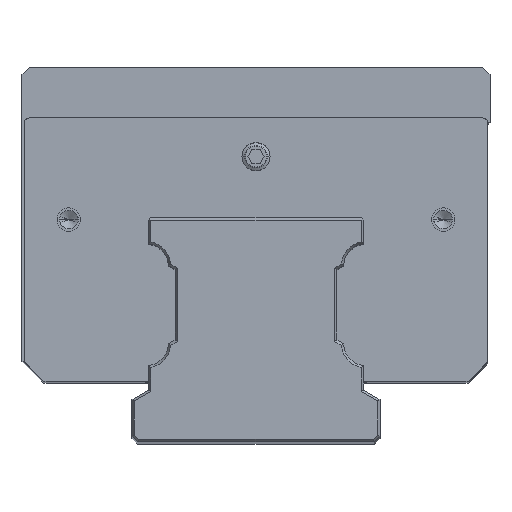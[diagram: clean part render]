
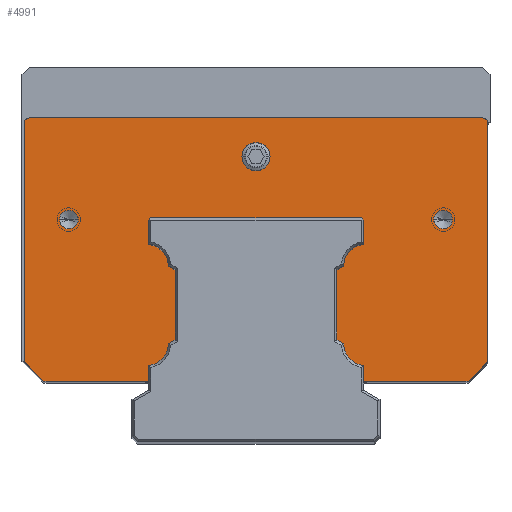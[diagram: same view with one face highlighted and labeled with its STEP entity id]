
A CAD part, top view. The second image highlights one B-rep face of the part: STEP entity #4991.
In plain terms, the highlighted planar face has unit normal (0, 0, 1).
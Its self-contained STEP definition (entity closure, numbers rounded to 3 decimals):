
#3995=CARTESIAN_POINT('',(48.5,-1.,21.7));
#3996=DIRECTION('',(0.,0.,1.));
#3997=DIRECTION('',(1.,0.,0.));
#3998=AXIS2_PLACEMENT_3D('',#3995,#3996,#3997);
#4003=DIRECTION('',(0.,1.,0.));
#4004=VECTOR('',#4003,51.1);
#4005=CARTESIAN_POINT('',(49.5,-52.1,21.7));
#4006=LINE('',#4005,#4004);
#4010=DIRECTION('',(0.707,0.707,0.));
#4011=VECTOR('',#4010,5.94);
#4012=CARTESIAN_POINT('',(45.3,-56.3,21.7));
#4013=LINE('',#4012,#4011);
#4017=DIRECTION('',(1.,0.,0.));
#4018=VECTOR('',#4017,22.3);
#4019=CARTESIAN_POINT('',(23.,-56.3,21.7));
#4020=LINE('',#4019,#4018);
#4024=DIRECTION('',(0.,1.,0.));
#4025=VECTOR('',#4024,3.295);
#4026=CARTESIAN_POINT('',(23.,-56.3,21.7));
#4027=LINE('',#4026,#4025);
#4031=CARTESIAN_POINT('',(23.571,-48.179,21.7));
#4032=DIRECTION('',(0.,0.,1.));
#4033=DIRECTION('',(-0.999,-0.039,0.));
#4034=AXIS2_PLACEMENT_3D('',#4031,#4032,#4033);
#4039=DIRECTION('',(-0.866,0.5,0.));
#4040=VECTOR('',#4039,1.633);
#4041=CARTESIAN_POINT('',(18.715,-48.367,21.7));
#4042=LINE('',#4041,#4040);
#4046=DIRECTION('',(0.,1.,0.));
#4047=VECTOR('',#4046,15.1);
#4048=CARTESIAN_POINT('',(17.3,-47.55,21.7));
#4049=LINE('',#4048,#4047);
#4053=DIRECTION('',(0.866,0.5,0.));
#4054=VECTOR('',#4053,1.633);
#4055=CARTESIAN_POINT('',(17.3,-32.45,21.7));
#4056=LINE('',#4055,#4054);
#4060=CARTESIAN_POINT('',(23.571,-31.821,21.7));
#4061=DIRECTION('',(0.,0.,1.));
#4062=DIRECTION('',(-0.117,0.993,0.));
#4063=AXIS2_PLACEMENT_3D('',#4060,#4061,#4062);
#4068=DIRECTION('',(0.,1.,0.));
#4069=VECTOR('',#4068,5.1);
#4070=CARTESIAN_POINT('',(23.,-26.995,21.7));
#4071=LINE('',#4070,#4069);
#4075=DIRECTION('',(-0.707,0.707,0.));
#4076=VECTOR('',#4075,0.7);
#4077=CARTESIAN_POINT('',(23.,-21.895,21.7));
#4078=LINE('',#4077,#4076);
#4082=DIRECTION('',(-1.,0.,0.));
#4083=VECTOR('',#4082,45.01);
#4084=CARTESIAN_POINT('',(22.505,-21.4,21.7));
#4085=LINE('',#4084,#4083);
#4089=DIRECTION('',(-0.707,-0.707,0.));
#4090=VECTOR('',#4089,0.7);
#4091=CARTESIAN_POINT('',(-22.505,-21.4,21.7));
#4092=LINE('',#4091,#4090);
#4096=DIRECTION('',(0.,-1.,0.));
#4097=VECTOR('',#4096,5.1);
#4098=CARTESIAN_POINT('',(-23.,-21.895,21.7));
#4099=LINE('',#4098,#4097);
#4103=CARTESIAN_POINT('',(-23.571,-31.821,21.7));
#4104=DIRECTION('',(0.,0.,1.));
#4105=DIRECTION('',(0.999,0.039,0.));
#4106=AXIS2_PLACEMENT_3D('',#4103,#4104,#4105);
#4111=DIRECTION('',(0.866,-0.5,0.));
#4112=VECTOR('',#4111,1.633);
#4113=CARTESIAN_POINT('',(-18.715,-31.633,21.7));
#4114=LINE('',#4113,#4112);
#4118=DIRECTION('',(0.,-1.,0.));
#4119=VECTOR('',#4118,15.1);
#4120=CARTESIAN_POINT('',(-17.3,-32.45,21.7));
#4121=LINE('',#4120,#4119);
#4125=DIRECTION('',(-0.866,-0.5,0.));
#4126=VECTOR('',#4125,1.633);
#4127=CARTESIAN_POINT('',(-17.3,-47.55,21.7));
#4128=LINE('',#4127,#4126);
#4132=CARTESIAN_POINT('',(-23.571,-48.179,21.7));
#4133=DIRECTION('',(0.,0.,1.));
#4134=DIRECTION('',(0.117,-0.993,0.));
#4135=AXIS2_PLACEMENT_3D('',#4132,#4133,#4134);
#4140=DIRECTION('',(0.,1.,0.));
#4141=VECTOR('',#4140,3.295);
#4142=CARTESIAN_POINT('',(-23.,-56.3,21.7));
#4143=LINE('',#4142,#4141);
#4147=DIRECTION('',(1.,0.,0.));
#4148=VECTOR('',#4147,22.3);
#4149=CARTESIAN_POINT('',(-45.3,-56.3,21.7));
#4150=LINE('',#4149,#4148);
#4154=DIRECTION('',(0.707,-0.707,0.));
#4155=VECTOR('',#4154,5.94);
#4156=CARTESIAN_POINT('',(-49.5,-52.1,21.7));
#4157=LINE('',#4156,#4155);
#4161=DIRECTION('',(0.,-1.,0.));
#4162=VECTOR('',#4161,51.1);
#4163=CARTESIAN_POINT('',(-49.5,-1.,21.7));
#4164=LINE('',#4163,#4162);
#4168=CARTESIAN_POINT('',(-48.5,-1.,21.7));
#4169=DIRECTION('',(0.,0.,1.));
#4170=DIRECTION('',(0.,1.,0.));
#4171=AXIS2_PLACEMENT_3D('',#4168,#4169,#4170);
#4176=DIRECTION('',(-1.,0.,0.));
#4177=VECTOR('',#4176,97.);
#4178=CARTESIAN_POINT('',(48.5,0.,21.7));
#4179=LINE('',#4178,#4177);
#4183=CARTESIAN_POINT('',(40.,-21.7,21.7));
#4184=DIRECTION('',(0.,0.,1.));
#4185=DIRECTION('',(-1.,0.,0.));
#4186=AXIS2_PLACEMENT_3D('',#4183,#4184,#4185);
#4191=CARTESIAN_POINT('',(40.,-21.7,21.7));
#4192=DIRECTION('',(0.,0.,1.));
#4193=DIRECTION('',(1.,0.,0.));
#4194=AXIS2_PLACEMENT_3D('',#4191,#4192,#4193);
#4199=CARTESIAN_POINT('',(-40.,-21.7,21.7));
#4200=DIRECTION('',(0.,0.,1.));
#4201=DIRECTION('',(-1.,0.,0.));
#4202=AXIS2_PLACEMENT_3D('',#4199,#4200,#4201);
#4207=CARTESIAN_POINT('',(-40.,-21.7,21.7));
#4208=DIRECTION('',(0.,0.,1.));
#4209=DIRECTION('',(1.,0.,0.));
#4210=AXIS2_PLACEMENT_3D('',#4207,#4208,#4209);
#4215=CARTESIAN_POINT('',(0.,-8.3,21.7));
#4216=DIRECTION('',(0.,0.,1.));
#4217=DIRECTION('',(-1.,0.,0.));
#4218=AXIS2_PLACEMENT_3D('',#4215,#4216,#4217);
#4223=CARTESIAN_POINT('',(0.,-8.3,21.7));
#4224=DIRECTION('',(0.,0.,1.));
#4225=DIRECTION('',(1.,0.,0.));
#4226=AXIS2_PLACEMENT_3D('',#4223,#4224,#4225);
#4399=CARTESIAN_POINT('',(45.3,-56.3,21.7));
#4400=CARTESIAN_POINT('',(49.5,-52.1,21.7));
#4401=VERTEX_POINT('',#4399);
#4402=VERTEX_POINT('',#4400);
#4403=CARTESIAN_POINT('',(-49.5,-52.1,21.7));
#4404=CARTESIAN_POINT('',(-45.3,-56.3,21.7));
#4405=VERTEX_POINT('',#4403);
#4406=VERTEX_POINT('',#4404);
#4413=CARTESIAN_POINT('',(38.,-21.7,21.7));
#4414=VERTEX_POINT('',#4413);
#4415=CARTESIAN_POINT('',(42.,-21.7,21.7));
#4416=VERTEX_POINT('',#4415);
#4423=CARTESIAN_POINT('',(-42.,-21.7,21.7));
#4424=VERTEX_POINT('',#4423);
#4425=CARTESIAN_POINT('',(-38.,-21.7,21.7));
#4426=VERTEX_POINT('',#4425);
#4433=CARTESIAN_POINT('',(-3.,-8.3,21.7));
#4434=CARTESIAN_POINT('',(3.,-8.3,21.7));
#4435=VERTEX_POINT('',#4433);
#4436=VERTEX_POINT('',#4434);
#4441=CARTESIAN_POINT('',(49.5,-1.,21.7));
#4442=VERTEX_POINT('',#4441);
#4443=CARTESIAN_POINT('',(48.5,0.,21.7));
#4444=VERTEX_POINT('',#4443);
#4449=CARTESIAN_POINT('',(-48.5,0.,21.7));
#4450=VERTEX_POINT('',#4449);
#4451=CARTESIAN_POINT('',(-49.5,-1.,21.7));
#4452=VERTEX_POINT('',#4451);
#4489=CARTESIAN_POINT('',(23.,-56.3,21.7));
#4490=VERTEX_POINT('',#4489);
#4491=CARTESIAN_POINT('',(-23.,-56.3,21.7));
#4492=VERTEX_POINT('',#4491);
#4493=CARTESIAN_POINT('',(23.,-53.005,21.7));
#4494=VERTEX_POINT('',#4493);
#4495=CARTESIAN_POINT('',(18.715,-48.367,21.7));
#4496=VERTEX_POINT('',#4495);
#4497=CARTESIAN_POINT('',(17.3,-47.55,21.7));
#4498=VERTEX_POINT('',#4497);
#4499=CARTESIAN_POINT('',(17.3,-32.45,21.7));
#4500=VERTEX_POINT('',#4499);
#4501=CARTESIAN_POINT('',(18.715,-31.633,21.7));
#4502=VERTEX_POINT('',#4501);
#4503=CARTESIAN_POINT('',(23.,-26.995,21.7));
#4504=VERTEX_POINT('',#4503);
#4505=CARTESIAN_POINT('',(23.,-21.895,21.7));
#4506=VERTEX_POINT('',#4505);
#4507=CARTESIAN_POINT('',(22.505,-21.4,21.7));
#4508=VERTEX_POINT('',#4507);
#4509=CARTESIAN_POINT('',(-22.505,-21.4,21.7));
#4510=VERTEX_POINT('',#4509);
#4511=CARTESIAN_POINT('',(-23.,-21.895,21.7));
#4512=VERTEX_POINT('',#4511);
#4513=CARTESIAN_POINT('',(-23.,-26.995,21.7));
#4514=VERTEX_POINT('',#4513);
#4515=CARTESIAN_POINT('',(-18.715,-31.633,21.7));
#4516=VERTEX_POINT('',#4515);
#4517=CARTESIAN_POINT('',(-17.3,-32.45,21.7));
#4518=VERTEX_POINT('',#4517);
#4519=CARTESIAN_POINT('',(-17.3,-47.55,21.7));
#4520=VERTEX_POINT('',#4519);
#4521=CARTESIAN_POINT('',(-18.715,-48.367,21.7));
#4522=VERTEX_POINT('',#4521);
#4523=CARTESIAN_POINT('',(-23.,-53.005,21.7));
#4524=VERTEX_POINT('',#4523);
#4936=CARTESIAN_POINT('',(0.,0.,21.7));
#4937=DIRECTION('',(0.,0.,1.));
#4938=DIRECTION('',(1.,0.,0.));
#4939=AXIS2_PLACEMENT_3D('',#4936,#4937,#4938);
#4940=PLANE('',#4939);
#4941=ORIENTED_EDGE('',*,*,#4600,.F.);
#4942=ORIENTED_EDGE('',*,*,#4623,.F.);
#4943=ORIENTED_EDGE('',*,*,#4643,.F.);
#4944=ORIENTED_EDGE('',*,*,#4663,.F.);
#4945=ORIENTED_EDGE('',*,*,#4707,.T.);
#4946=ORIENTED_EDGE('',*,*,#4721,.F.);
#4947=ORIENTED_EDGE('',*,*,#4735,.T.);
#4948=ORIENTED_EDGE('',*,*,#4749,.T.);
#4949=ORIENTED_EDGE('',*,*,#4763,.T.);
#4950=ORIENTED_EDGE('',*,*,#4777,.F.);
#4951=ORIENTED_EDGE('',*,*,#4791,.T.);
#4952=ORIENTED_EDGE('',*,*,#4805,.T.);
#4953=ORIENTED_EDGE('',*,*,#4819,.T.);
#4954=ORIENTED_EDGE('',*,*,#4833,.T.);
#4955=ORIENTED_EDGE('',*,*,#4847,.T.);
#4956=ORIENTED_EDGE('',*,*,#4861,.F.);
#4957=ORIENTED_EDGE('',*,*,#4875,.T.);
#4958=ORIENTED_EDGE('',*,*,#4889,.T.);
#4959=ORIENTED_EDGE('',*,*,#4903,.T.);
#4960=ORIENTED_EDGE('',*,*,#4917,.F.);
#4961=ORIENTED_EDGE('',*,*,#4930,.F.);
#4962=ORIENTED_EDGE('',*,*,#4687,.F.);
#4964=ORIENTED_EDGE('',*,*,#4963,.F.);
#4966=ORIENTED_EDGE('',*,*,#4965,.F.);
#4968=ORIENTED_EDGE('',*,*,#4967,.F.);
#4970=ORIENTED_EDGE('',*,*,#4969,.F.);
#4971=EDGE_LOOP('',(#4941,#4942,#4943,#4944,#4945,#4946,#4947,#4948,#4949,#4950,
#4951,#4952,#4953,#4954,#4955,#4956,#4957,#4958,#4959,#4960,#4961,#4962,#4964,
#4966,#4968,#4970));
#4972=FACE_OUTER_BOUND('',#4971,.F.);
#4974=ORIENTED_EDGE('',*,*,#4973,.T.);
#4976=ORIENTED_EDGE('',*,*,#4975,.T.);
#4977=EDGE_LOOP('',(#4974,#4976));
#4978=FACE_BOUND('',#4977,.F.);
#4980=ORIENTED_EDGE('',*,*,#4979,.T.);
#4982=ORIENTED_EDGE('',*,*,#4981,.T.);
#4983=EDGE_LOOP('',(#4980,#4982));
#4984=FACE_BOUND('',#4983,.F.);
#4986=ORIENTED_EDGE('',*,*,#4985,.T.);
#4988=ORIENTED_EDGE('',*,*,#4987,.T.);
#4989=EDGE_LOOP('',(#4986,#4988));
#4990=FACE_BOUND('',#4989,.F.);
#3999=CIRCLE('',#3998,1.);
#4035=CIRCLE('',#4034,4.86);
#4064=CIRCLE('',#4063,4.86);
#4107=CIRCLE('',#4106,4.86);
#4136=CIRCLE('',#4135,4.86);
#4172=CIRCLE('',#4171,1.);
#4187=CIRCLE('',#4186,2.);
#4195=CIRCLE('',#4194,2.);
#4203=CIRCLE('',#4202,2.);
#4211=CIRCLE('',#4210,2.);
#4219=CIRCLE('',#4218,3.);
#4227=CIRCLE('',#4226,3.);
#4600=EDGE_CURVE('',#4442,#4444,#3999,.T.);
#4623=EDGE_CURVE('',#4402,#4442,#4006,.T.);
#4643=EDGE_CURVE('',#4401,#4402,#4013,.T.);
#4663=EDGE_CURVE('',#4490,#4401,#4020,.T.);
#4687=EDGE_CURVE('',#4406,#4492,#4150,.T.);
#4707=EDGE_CURVE('',#4490,#4494,#4027,.T.);
#4721=EDGE_CURVE('',#4496,#4494,#4035,.T.);
#4735=EDGE_CURVE('',#4496,#4498,#4042,.T.);
#4749=EDGE_CURVE('',#4498,#4500,#4049,.T.);
#4763=EDGE_CURVE('',#4500,#4502,#4056,.T.);
#4777=EDGE_CURVE('',#4504,#4502,#4064,.T.);
#4791=EDGE_CURVE('',#4504,#4506,#4071,.T.);
#4805=EDGE_CURVE('',#4506,#4508,#4078,.T.);
#4819=EDGE_CURVE('',#4508,#4510,#4085,.T.);
#4833=EDGE_CURVE('',#4510,#4512,#4092,.T.);
#4847=EDGE_CURVE('',#4512,#4514,#4099,.T.);
#4861=EDGE_CURVE('',#4516,#4514,#4107,.T.);
#4875=EDGE_CURVE('',#4516,#4518,#4114,.T.);
#4889=EDGE_CURVE('',#4518,#4520,#4121,.T.);
#4903=EDGE_CURVE('',#4520,#4522,#4128,.T.);
#4917=EDGE_CURVE('',#4524,#4522,#4136,.T.);
#4930=EDGE_CURVE('',#4492,#4524,#4143,.T.);
#4963=EDGE_CURVE('',#4405,#4406,#4157,.T.);
#4965=EDGE_CURVE('',#4452,#4405,#4164,.T.);
#4967=EDGE_CURVE('',#4450,#4452,#4172,.T.);
#4969=EDGE_CURVE('',#4444,#4450,#4179,.T.);
#4973=EDGE_CURVE('',#4414,#4416,#4187,.T.);
#4975=EDGE_CURVE('',#4416,#4414,#4195,.T.);
#4979=EDGE_CURVE('',#4424,#4426,#4203,.T.);
#4981=EDGE_CURVE('',#4426,#4424,#4211,.T.);
#4985=EDGE_CURVE('',#4435,#4436,#4219,.T.);
#4987=EDGE_CURVE('',#4436,#4435,#4227,.T.);
#4991=ADVANCED_FACE('',(#4972,#4978,#4984,#4990),#4940,.T.);
